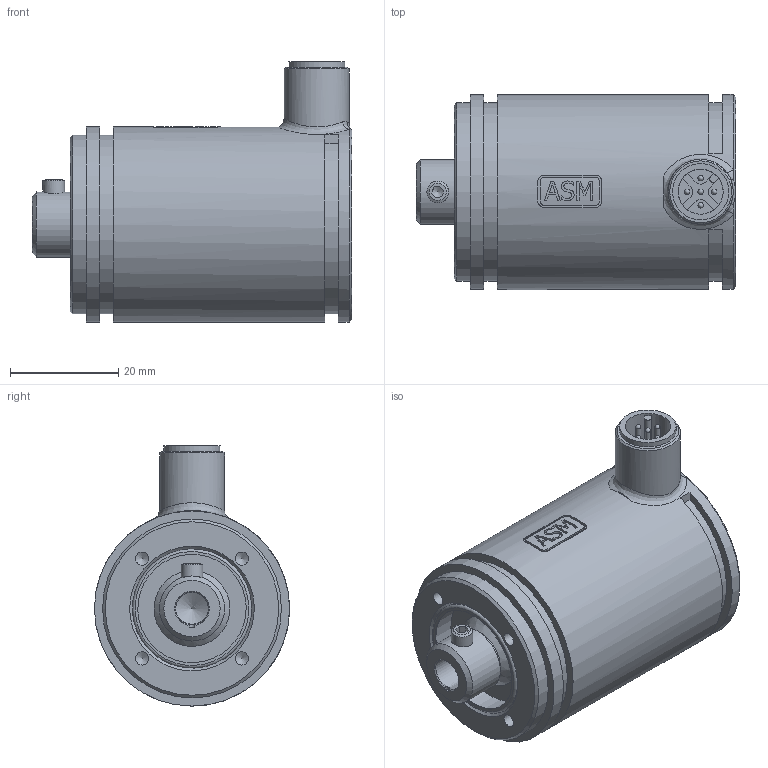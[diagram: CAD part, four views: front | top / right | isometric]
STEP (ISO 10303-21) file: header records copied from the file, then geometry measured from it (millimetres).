
FILE_DESCRIPTION((''),'2;1');
FILE_NAME('K:\Daten\pras3-m12r.stp','2010-03-08T17:47:35',('kamp'),(''),'Autodesk Inventor 2008','Autodesk Inventor 2008','');
FILE_SCHEMA(('AUTOMOTIVE_DESIGN { 1 0 10303 214 1 1 1 1 }'));
Length unit declared in the file: millimetre
Products named in the file (1): Bauteil15
Bounding box: 59 x 36 x 48 mm (x, y, z)
Volume: 51738.7 mm3; surface area: 10643 mm2
Topology: 1 solids, 1 shells, 165 faces, 435 edges, 284 vertices
Faces by surface type: plane 80, cylinder 36, bspline 32, cone 10, sphere 5, torus 2
Full cylindrical faces by diameter (mm): 1 x5, 4 x1, 8.3 x1, 10 x1, 10.4 x1, 12 x2, 14 x1, 20 x1, 21 x1, 33 x2, 36 x2
Entity records: 5989 total; most frequent: CARTESIAN_POINT 2237, ORIENTED_EDGE 722, DIRECTION 690, EDGE_CURVE 361, VERTEX_POINT 262, AXIS2_PLACEMENT_3D 258, EDGE_LOOP 229, VECTOR 174
